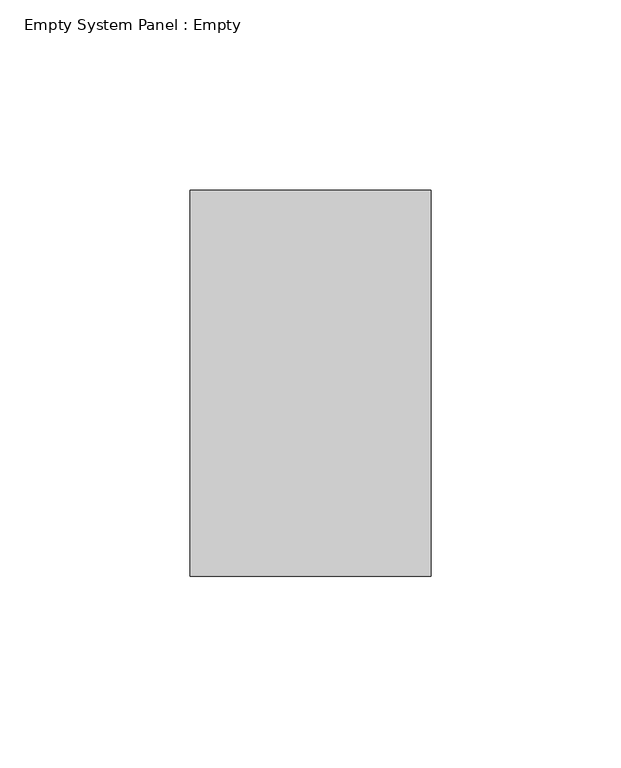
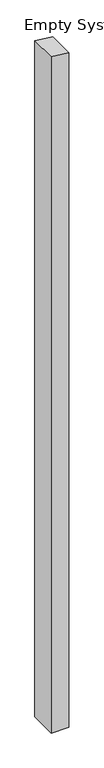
"""IFC4 building model written with IfcOpenShell, lengths in millimetres: plate geometry, Empty System Panel : Empty."""

from ifc_helpers import new_model, si_unit, frame, origin, place, context, project, spatial, polyline, outline, extrude, source, transform, mapped, element, save


def empty_system_panel_empty_ce4df088(model_context):
    return source(origin(), model_context, "Body", "SweptSolid", [
        extrude(outline(polyline([(0.0, -31.75), (0.0, 31.75), (2572.3205441, 31.75), (2579.4229031, -31.75), (0.0, -31.75)])), frame((0.0, -50.8, 0.0), z_axis=(0.0, 1.0, 0.0), x_axis=(0.0, 0.0, 1.0)), (0.0, 0.0, 1.0), 101.6),
    ])


if __name__ == "__main__":
    model = new_model("IFC4")
    model_context = context("Model", 3, world=origin())
    ifc_project = project(units=[si_unit("LENGTHUNIT", "METRE", prefix="MILLI")], contexts=[model_context])
    site = spatial("IfcSite", under=ifc_project)
    building = spatial("IfcBuilding", under=site)
    placement = place(None, origin())
    empty_system_panel_empty_shape = empty_system_panel_empty_ce4df088(model_context)
    element("IfcPlate", 1, ObjectType="Empty System Panel : Empty", at=placement, inside=building, context=model_context, shape_type="MappedRepresentation", body=[
        mapped(empty_system_panel_empty_shape, transform((0.0, 0.0, 0.0), x_axis=(1.0, 0.0, 0.0), y_axis=(0.0, 1.0, 0.0), z_axis=(0.0, 0.0, 1.0))),
    ])
    save(model, "model.ifc")
